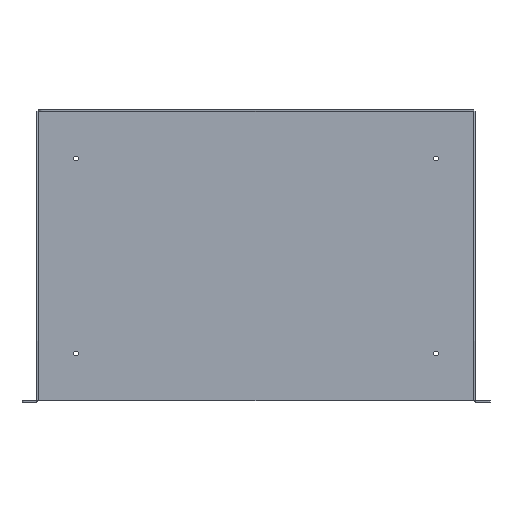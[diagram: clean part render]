
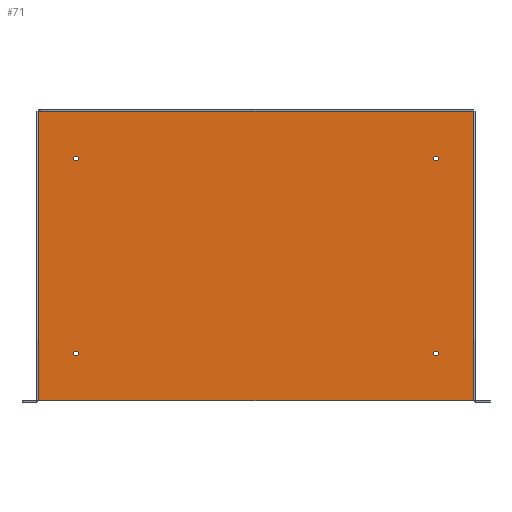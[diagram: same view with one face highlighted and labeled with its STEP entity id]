
A CAD part, top view. The second image highlights one B-rep face of the part: STEP entity #71.
In plain terms, the highlighted planar face has unit normal (0, 0, 1).
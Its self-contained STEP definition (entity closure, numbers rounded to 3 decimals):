
#71 = ADVANCED_FACE( '', ( #205, #206, #207, #208, #209 ), #210, .T. );
#205 = FACE_BOUND( '', #503, .T. );
#206 = FACE_BOUND( '', #504, .T. );
#207 = FACE_BOUND( '', #505, .T. );
#208 = FACE_BOUND( '', #506, .T. );
#209 = FACE_OUTER_BOUND( '', #507, .T. );
#210 = PLANE( '', #508 );
#503 = EDGE_LOOP( '', ( #958 ) );
#504 = EDGE_LOOP( '', ( #959 ) );
#505 = EDGE_LOOP( '', ( #960 ) );
#506 = EDGE_LOOP( '', ( #961 ) );
#507 = EDGE_LOOP( '', ( #962, #963, #964, #965 ) );
#508 = AXIS2_PLACEMENT_3D( '', #966, #967, #968 );
#958 = ORIENTED_EDGE( '', *, *, #1675, .F. );
#959 = ORIENTED_EDGE( '', *, *, #1676, .F. );
#960 = ORIENTED_EDGE( '', *, *, #1677, .F. );
#961 = ORIENTED_EDGE( '', *, *, #1678, .F. );
#962 = ORIENTED_EDGE( '', *, *, #1679, .F. );
#963 = ORIENTED_EDGE( '', *, *, #1640, .T. );
#964 = ORIENTED_EDGE( '', *, *, #1680, .F. );
#965 = ORIENTED_EDGE( '', *, *, #1681, .T. );
#966 = CARTESIAN_POINT( '', ( -285.75, -189.586, 1.829 ) );
#967 = DIRECTION( '', ( 0., 0., 1. ) );
#968 = DIRECTION( '', ( 1., 0., 0. ) );
#1640 = EDGE_CURVE( '', #1964, #1959, #1967, .T. );
#1675 = EDGE_CURVE( '', #2029, #2029, #2030, .T. );
#1676 = EDGE_CURVE( '', #2031, #2031, #2032, .T. );
#1677 = EDGE_CURVE( '', #2033, #2033, #2034, .T. );
#1678 = EDGE_CURVE( '', #2035, #2035, #2036, .T. );
#1679 = EDGE_CURVE( '', #1964, #2037, #2038, .T. );
#1680 = EDGE_CURVE( '', #2039, #1959, #2040, .T. );
#1681 = EDGE_CURVE( '', #2039, #2037, #2041, .T. );
#1959 = VERTEX_POINT( '', #2481 );
#1964 = VERTEX_POINT( '', #2487 );
#1967 = LINE( '', #2503, #2504 );
#2029 = VERTEX_POINT( '', #2622 );
#2030 = CIRCLE( '', #2623, 3.175 );
#2031 = VERTEX_POINT( '', #2624 );
#2032 = CIRCLE( '', #2625, 3.175 );
#2033 = VERTEX_POINT( '', #2626 );
#2034 = CIRCLE( '', #2627, 3.175 );
#2035 = VERTEX_POINT( '', #2628 );
#2036 = CIRCLE( '', #2629, 3.175 );
#2037 = VERTEX_POINT( '', #2630 );
#2038 = LINE( '', #2631, #2632 );
#2039 = VERTEX_POINT( '', #2633 );
#2040 = LINE( '', #2634, #2635 );
#2041 = LINE( '', #2636, #2637 );
#2481 = CARTESIAN_POINT( '', ( -283.007, 186.842, 1.829 ) );
#2487 = CARTESIAN_POINT( '', ( 283.007, 186.842, 1.829 ) );
#2503 = CARTESIAN_POINT( '', ( -283.005, 186.842, 1.829 ) );
#2504 = VECTOR( '', #3172, 1000. );
#2622 = CARTESIAN_POINT( '', ( -231.369, 126.086, 1.829 ) );
#2623 = AXIS2_PLACEMENT_3D( '', #3211, #3212, #3213 );
#2624 = CARTESIAN_POINT( '', ( 237.719, -127.914, 1.829 ) );
#2625 = AXIS2_PLACEMENT_3D( '', #3214, #3215, #3216 );
#2626 = CARTESIAN_POINT( '', ( 237.719, 126.086, 1.829 ) );
#2627 = AXIS2_PLACEMENT_3D( '', #3217, #3218, #3219 );
#2628 = CARTESIAN_POINT( '', ( -231.369, -127.914, 1.829 ) );
#2629 = AXIS2_PLACEMENT_3D( '', #3220, #3221, #3222 );
#2630 = CARTESIAN_POINT( '', ( 283.007, -189.586, 1.829 ) );
#2631 = CARTESIAN_POINT( '', ( 283.007, 189.586, 1.829 ) );
#2632 = VECTOR( '', #3223, 1000. );
#2633 = CARTESIAN_POINT( '', ( -283.007, -189.586, 1.829 ) );
#2634 = CARTESIAN_POINT( '', ( -283.007, -189.586, 1.829 ) );
#2635 = VECTOR( '', #3224, 1000. );
#2636 = CARTESIAN_POINT( '', ( -285.75, -189.586, 1.829 ) );
#2637 = VECTOR( '', #3225, 1000. );
#3172 = DIRECTION( '', ( -1., 0., 0. ) );
#3211 = CARTESIAN_POINT( '', ( -234.544, 126.086, 1.829 ) );
#3212 = DIRECTION( '', ( 0., 0., 1. ) );
#3213 = DIRECTION( '', ( 1., 0., 0. ) );
#3214 = CARTESIAN_POINT( '', ( 234.544, -127.914, 1.829 ) );
#3215 = DIRECTION( '', ( 0., 0., 1. ) );
#3216 = DIRECTION( '', ( 1., 0., 0. ) );
#3217 = CARTESIAN_POINT( '', ( 234.544, 126.086, 1.829 ) );
#3218 = DIRECTION( '', ( 0., 0., 1. ) );
#3219 = DIRECTION( '', ( 1., 0., 0. ) );
#3220 = CARTESIAN_POINT( '', ( -234.544, -127.914, 1.829 ) );
#3221 = DIRECTION( '', ( 0., 0., 1. ) );
#3222 = DIRECTION( '', ( 1., 0., 0. ) );
#3223 = DIRECTION( '', ( 0., -1., 0. ) );
#3224 = DIRECTION( '', ( 0., 1., 0. ) );
#3225 = DIRECTION( '', ( 1., 0., 0. ) );
